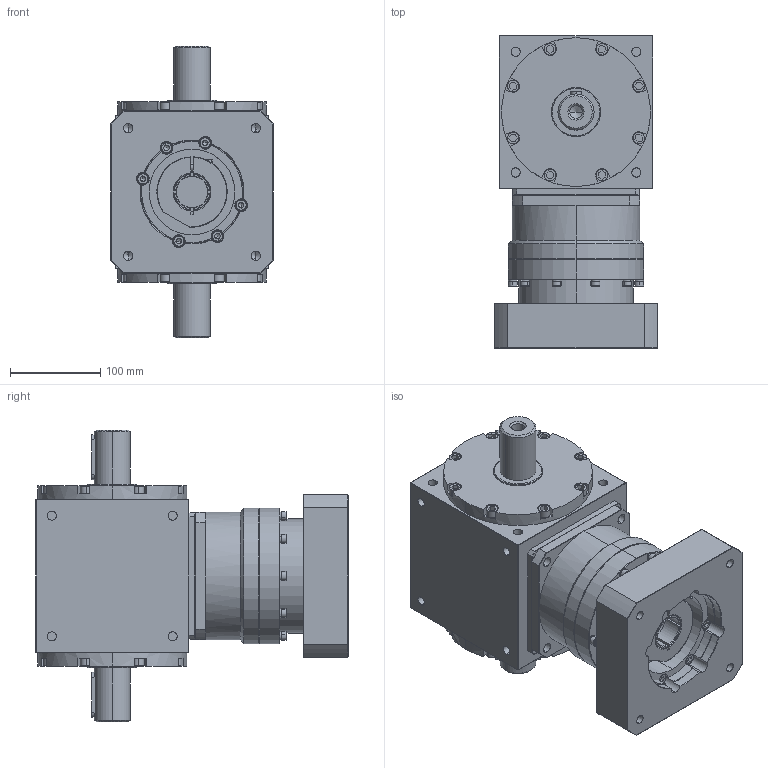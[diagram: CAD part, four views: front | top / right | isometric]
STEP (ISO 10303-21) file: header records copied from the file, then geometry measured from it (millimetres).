
FILE_DESCRIPTION (( 'STEP AP203' ), '1' );
FILE_NAME ('AT170-FL-L1 35-114.3-200-M12.STEP', '2024-12-26T02:33:02', ( '' ), ( '' ), 'SwSTEP 2.0', 'SolidWorks 2021', '' );
FILE_SCHEMA (( 'CONFIG_CONTROL_DESIGN' ));
Length unit declared in the file: millimetre
Products named in the file (3): VRB-142-L1-S2-P1 35-114.3-200-M12; AT170-FL; AT170-FL-L1 35-114.3-200-M12
Assembly tree (2 placements, depth 2):
  AT170-FL-L1 35-114.3-200-M12
    AT170-FL
    VRB-142-L1-S2-P1 35-114.3-200-M12
Bounding box: 180 x 347 x 324 mm (x, y, z)
Volume: 8905457.6 mm3; surface area: 551803.3 mm2
Topology: 40 solids, 40 shells, 1337 faces, 3263 edges, 2036 vertices
Faces by surface type: plane 666, cylinder 464, cone 169, torus 34, bspline 4
Entity records: 39649 total; most frequent: CARTESIAN_POINT 7855, DIRECTION 6838, ORIENTED_EDGE 6406, EDGE_CURVE 3203, AXIS2_PLACEMENT_3D 2587, VERTEX_POINT 2036, LINE 1664, VECTOR 1664
